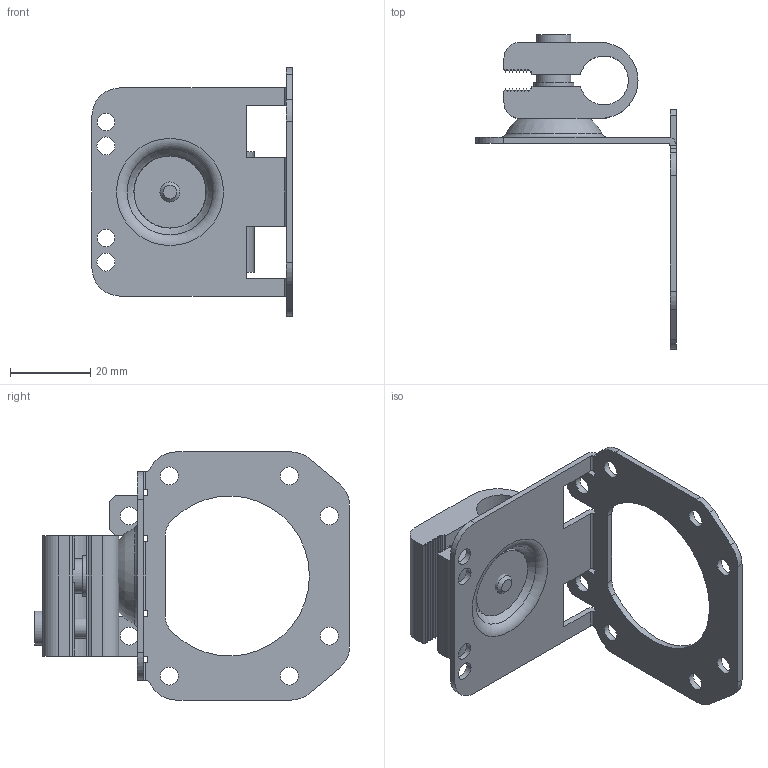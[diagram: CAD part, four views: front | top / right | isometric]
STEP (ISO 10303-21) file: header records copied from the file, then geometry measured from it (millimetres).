
FILE_DESCRIPTION(/* description */ (''),/* implementation_level */ '2;1');
FILE_NAME(/* name */ '19-102270_00.0_1-3DCAD_BTU320M_D12_RL70.stp',/* time_stamp */ '2018-08-07T13:08:48+02:00',/* author */ ('CC2'),/* organization */ ('Leuze electronic'),/* preprocessor_version */ 'ST-DEVELOPER v16',/* originating_system */ 'SIEMENS PLM Software NX 11.0',/* authorisation */ '');
FILE_SCHEMA (('AUTOMOTIVE_DESIGN { 1 0 10303 214 3 1 1 1 }'));
Length unit declared in the file: millimetre
Products named in the file (1): jsch1514C0202t8z
Bounding box: 50 x 78.7 x 62 mm (x, y, z)
Volume: 18215.2 mm3; surface area: 17820.8 mm2
Topology: 7 solids, 7 shells, 471 faces, 1382 edges, 922 vertices
Faces by surface type: plane 319, cylinder 67, cone 41, sphere 40, torus 4
Full cylindrical faces by diameter (mm): 4.2 x2, 4.3 x2, 4.5 x10, 5 x2, 5.2 x1, 5.3 x2, 5.5 x1, 8.5 x2, 10 x2, 11.5 x2, 12.8 x1, 18 x1
Entity records: 15726 total; most frequent: CARTESIAN_POINT 2980, DIRECTION 2717, ORIENTED_EDGE 2642, EDGE_CURVE 1321, AXIS2_PLACEMENT_3D 1013, VERTEX_POINT 904, LINE 691, VECTOR 691
